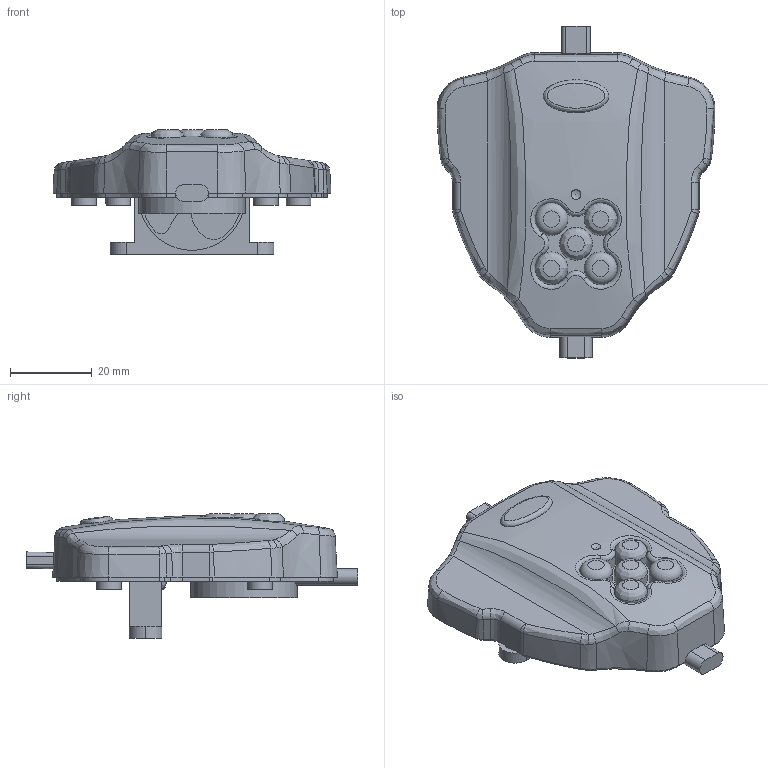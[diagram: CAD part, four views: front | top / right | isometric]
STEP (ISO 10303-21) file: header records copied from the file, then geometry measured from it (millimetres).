
FILE_DESCRIPTION(/* description */ (''),/* implementation_level */ '2;1');
FILE_NAME(/* name */ '样题8.stp',/* time_stamp */ '2022-03-14T16:06:31+08:00',/* author */ (''),/* organization */ (''),/* preprocessor_version */ 'ST-DEVELOPER v16',/* originating_system */ 'SIEMENS PLM Software NX 10.0',/* authorisation */ '');
FILE_SCHEMA (('AUTOMOTIVE_DESIGN { 1 0 10303 214 3 1 1 1 }'));
Length unit declared in the file: millimetre
Products named in the file (7): 前盖1; 红外射线头1; 摄像头1; 风扇1; USB插头1; 电源线1; 样题8
Assembly tree (6 placements, depth 2):
  样题8
    电源线1
    USB插头1
    风扇1
    摄像头1
    红外射线头1
    前盖1
Bounding box: 67.86 x 81.04 x 30.5 mm (x, y, z)
Volume: 27670 mm3; surface area: 21157.1 mm2
Topology: 6 solids, 6 shells, 405 faces, 1037 edges, 661 vertices
Faces by surface type: plane 137, cylinder 105, bspline 98, cone 52, extrusion 10, torus 2, sphere 1
Full cylindrical faces by diameter (mm): 2.8 x2, 3 x6, 3.3 x2, 5 x1, 6 x8, 8 x5, 26 x2
Entity records: 15056 total; most frequent: CARTESIAN_POINT 5770, ORIENTED_EDGE 1938, DIRECTION 1784, EDGE_CURVE 969, AXIS2_PLACEMENT_3D 703, VERTEX_POINT 641, EDGE_LOOP 482, ADVANCED_FACE 405
